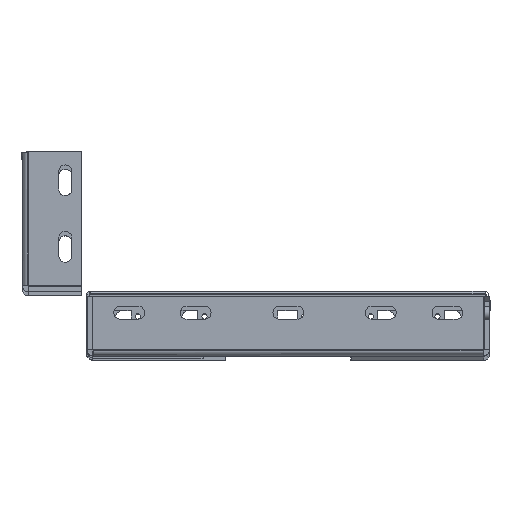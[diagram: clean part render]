
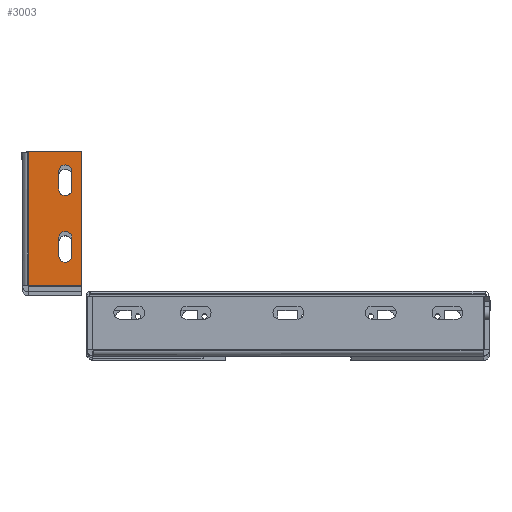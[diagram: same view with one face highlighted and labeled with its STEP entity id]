
A CAD part, top view. The second image highlights one B-rep face of the part: STEP entity #3003.
In plain terms, the highlighted planar face has unit normal (0, 0, 1).
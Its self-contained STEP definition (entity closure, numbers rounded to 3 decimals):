
#29 = LINE ( 'NONE', #17573, #358 ) ;
#358 = VECTOR ( 'NONE', #7145, 1000. ) ;
#565 = ORIENTED_EDGE ( 'NONE', *, *, #6429, .F. ) ;
#664 = VECTOR ( 'NONE', #25582, 1000. ) ;
#1581 = ORIENTED_EDGE ( 'NONE', *, *, #11322, .F. ) ;
#1699 = CARTESIAN_POINT ( 'NONE',  ( -25.5, 71.5, 4. ) ) ;
#2122 = VERTEX_POINT ( 'NONE', #7263 ) ;
#2285 = DIRECTION ( 'NONE',  ( 1., 0., 0. ) ) ;
#2524 = CIRCLE ( 'NONE', #17689, 5. ) ;
#2755 = VECTOR ( 'NONE', #16897, 1000. ) ;
#2777 = CARTESIAN_POINT ( 'NONE',  ( -8., 149.5, 4. ) ) ;
#2785 = DIRECTION ( 'NONE',  ( 0., -1., 0. ) ) ;
#2869 = FACE_BOUND ( 'NONE', #22209, .T. ) ;
#3003 = ADVANCED_FACE ( 'NONE', ( #20131, #2869, #18828 ), #21881, .F. ) ;
#3004 = CARTESIAN_POINT ( 'NONE',  ( -8., 149.5, 4. ) ) ;
#3066 = AXIS2_PLACEMENT_3D ( 'NONE', #8972, #8789, #21150 ) ;
#3609 = LINE ( 'NONE', #2777, #664 ) ;
#3649 = CARTESIAN_POINT ( 'NONE',  ( -15.5, 71.5, 4. ) ) ;
#3803 = EDGE_CURVE ( 'NONE', #6430, #16627, #24618, .T. ) ;
#4027 = ORIENTED_EDGE ( 'NONE', *, *, #17524, .T. ) ;
#4275 = EDGE_CURVE ( 'NONE', #25498, #6672, #23301, .T. ) ;
#4655 = EDGE_LOOP ( 'NONE', ( #5337, #22062, #12398, #26312 ) ) ;
#5097 = DIRECTION ( 'NONE',  ( 0., -1., 0. ) ) ;
#5216 = CARTESIAN_POINT ( 'NONE',  ( -25.5, 121.5, 4. ) ) ;
#5337 = ORIENTED_EDGE ( 'NONE', *, *, #22699, .F. ) ;
#5520 = CIRCLE ( 'NONE', #6044, 5. ) ;
#6000 = DIRECTION ( 'NONE',  ( 0., 0., 1. ) ) ;
#6016 = LINE ( 'NONE', #19251, #26578 ) ;
#6044 = AXIS2_PLACEMENT_3D ( 'NONE', #15291, #11333, #9057 ) ;
#6429 = EDGE_CURVE ( 'NONE', #25362, #16627, #29, .T. ) ;
#6430 = VERTEX_POINT ( 'NONE', #3004 ) ;
#6672 = VERTEX_POINT ( 'NONE', #1699 ) ;
#6982 = DIRECTION ( 'NONE',  ( -1., 0., 0. ) ) ;
#7069 = LINE ( 'NONE', #22830, #14630 ) ;
#7145 = DIRECTION ( 'NONE',  ( 0., 1., 0. ) ) ;
#7263 = CARTESIAN_POINT ( 'NONE',  ( -15.5, 134.5, 4. ) ) ;
#7351 = EDGE_CURVE ( 'NONE', #14532, #20397, #15972, .T. ) ;
#8115 = CARTESIAN_POINT ( 'NONE',  ( -20.5, 121.5, 4. ) ) ;
#8289 = DIRECTION ( 'NONE',  ( 0., 1., 0. ) ) ;
#8408 = AXIS2_PLACEMENT_3D ( 'NONE', #17387, #13485, #6982 ) ;
#8453 = EDGE_CURVE ( 'NONE', #20397, #2122, #7069, .T. ) ;
#8789 = DIRECTION ( 'NONE',  ( 0., 0., 1. ) ) ;
#8972 = CARTESIAN_POINT ( 'NONE',  ( -20.5, 71.5, 4. ) ) ;
#9057 = DIRECTION ( 'NONE',  ( 1., 0., 0. ) ) ;
#9278 = CARTESIAN_POINT ( 'NONE',  ( -25.5, 84.5, 4. ) ) ;
#10098 = ORIENTED_EDGE ( 'NONE', *, *, #16859, .T. ) ;
#10221 = DIRECTION ( 'NONE',  ( 1., 0., 0. ) ) ;
#10459 = EDGE_CURVE ( 'NONE', #2122, #17719, #5520, .T. ) ;
#10492 = CARTESIAN_POINT ( 'NONE',  ( -49., 149.5, 4. ) ) ;
#10775 = CARTESIAN_POINT ( 'NONE',  ( -8., 49.207, 4. ) ) ;
#10839 = CARTESIAN_POINT ( 'NONE',  ( -49., 49.207, 4. ) ) ;
#11322 = EDGE_CURVE ( 'NONE', #16067, #20893, #22149, .T. ) ;
#11333 = DIRECTION ( 'NONE',  ( 0., 0., 1. ) ) ;
#12125 = CARTESIAN_POINT ( 'NONE',  ( -15.5, 84.5, 4. ) ) ;
#12337 = VECTOR ( 'NONE', #20712, 1000. ) ;
#12398 = ORIENTED_EDGE ( 'NONE', *, *, #8453, .F. ) ;
#13485 = DIRECTION ( 'NONE',  ( 0., 0., -1. ) ) ;
#14532 = VERTEX_POINT ( 'NONE', #5216 ) ;
#14630 = VECTOR ( 'NONE', #8289, 1000. ) ;
#15291 = CARTESIAN_POINT ( 'NONE',  ( -20.5, 134.5, 4. ) ) ;
#15972 = CIRCLE ( 'NONE', #16329, 5. ) ;
#16067 = VERTEX_POINT ( 'NONE', #3649 ) ;
#16329 = AXIS2_PLACEMENT_3D ( 'NONE', #8115, #22740, #10221 ) ;
#16332 = CIRCLE ( 'NONE', #3066, 5. ) ;
#16627 = VERTEX_POINT ( 'NONE', #20181 ) ;
#16853 = ORIENTED_EDGE ( 'NONE', *, *, #23858, .F. ) ;
#16859 = EDGE_CURVE ( 'NONE', #20151, #6430, #3609, .T. ) ;
#16897 = DIRECTION ( 'NONE',  ( -1., 0., 0. ) ) ;
#17387 = CARTESIAN_POINT ( 'NONE',  ( -49., 48.5, 4. ) ) ;
#17403 = VECTOR ( 'NONE', #21456, 1000. ) ;
#17454 = EDGE_LOOP ( 'NONE', ( #565, #4027, #10098, #20633 ) ) ;
#17524 = EDGE_CURVE ( 'NONE', #25362, #20151, #26544, .T. ) ;
#17573 = CARTESIAN_POINT ( 'NONE',  ( -48.263, 48.5, 4. ) ) ;
#17689 = AXIS2_PLACEMENT_3D ( 'NONE', #18490, #6000, #2285 ) ;
#17719 = VERTEX_POINT ( 'NONE', #24453 ) ;
#18286 = CARTESIAN_POINT ( 'NONE',  ( -15.5, 84.5, 4. ) ) ;
#18490 = CARTESIAN_POINT ( 'NONE',  ( -20.5, 84.5, 4. ) ) ;
#18828 = FACE_OUTER_BOUND ( 'NONE', #17454, .T. ) ;
#19251 = CARTESIAN_POINT ( 'NONE',  ( -25.5, 134.5, 4. ) ) ;
#19329 = VECTOR ( 'NONE', #5097, 1000. ) ;
#19420 = EDGE_CURVE ( 'NONE', #6672, #16067, #16332, .T. ) ;
#20131 = FACE_BOUND ( 'NONE', #4655, .T. ) ;
#20151 = VERTEX_POINT ( 'NONE', #10775 ) ;
#20181 = CARTESIAN_POINT ( 'NONE',  ( -48.263, 149.5, 4. ) ) ;
#20397 = VERTEX_POINT ( 'NONE', #20715 ) ;
#20633 = ORIENTED_EDGE ( 'NONE', *, *, #3803, .T. ) ;
#20712 = DIRECTION ( 'NONE',  ( 0., 1., 0. ) ) ;
#20715 = CARTESIAN_POINT ( 'NONE',  ( -15.5, 121.5, 4. ) ) ;
#20893 = VERTEX_POINT ( 'NONE', #18286 ) ;
#21150 = DIRECTION ( 'NONE',  ( 1., 0., 0. ) ) ;
#21456 = DIRECTION ( 'NONE',  ( 1., 0., 0. ) ) ;
#21881 = PLANE ( 'NONE',  #8408 ) ;
#22062 = ORIENTED_EDGE ( 'NONE', *, *, #10459, .F. ) ;
#22149 = LINE ( 'NONE', #12125, #12337 ) ;
#22209 = EDGE_LOOP ( 'NONE', ( #26195, #16853, #1581, #23198 ) ) ;
#22699 = EDGE_CURVE ( 'NONE', #17719, #14532, #6016, .T. ) ;
#22740 = DIRECTION ( 'NONE',  ( 0., 0., 1. ) ) ;
#22830 = CARTESIAN_POINT ( 'NONE',  ( -15.5, 134.5, 4. ) ) ;
#23198 = ORIENTED_EDGE ( 'NONE', *, *, #19420, .F. ) ;
#23301 = LINE ( 'NONE', #9278, #19329 ) ;
#23858 = EDGE_CURVE ( 'NONE', #20893, #25498, #2524, .T. ) ;
#24453 = CARTESIAN_POINT ( 'NONE',  ( -25.5, 134.5, 4. ) ) ;
#24618 = LINE ( 'NONE', #10492, #2755 ) ;
#25362 = VERTEX_POINT ( 'NONE', #25768 ) ;
#25498 = VERTEX_POINT ( 'NONE', #26298 ) ;
#25582 = DIRECTION ( 'NONE',  ( 0., 1., 0. ) ) ;
#25768 = CARTESIAN_POINT ( 'NONE',  ( -48.263, 49.207, 4. ) ) ;
#26195 = ORIENTED_EDGE ( 'NONE', *, *, #4275, .F. ) ;
#26298 = CARTESIAN_POINT ( 'NONE',  ( -25.5, 84.5, 4. ) ) ;
#26312 = ORIENTED_EDGE ( 'NONE', *, *, #7351, .F. ) ;
#26544 = LINE ( 'NONE', #10839, #17403 ) ;
#26578 = VECTOR ( 'NONE', #2785, 1000. ) ;
